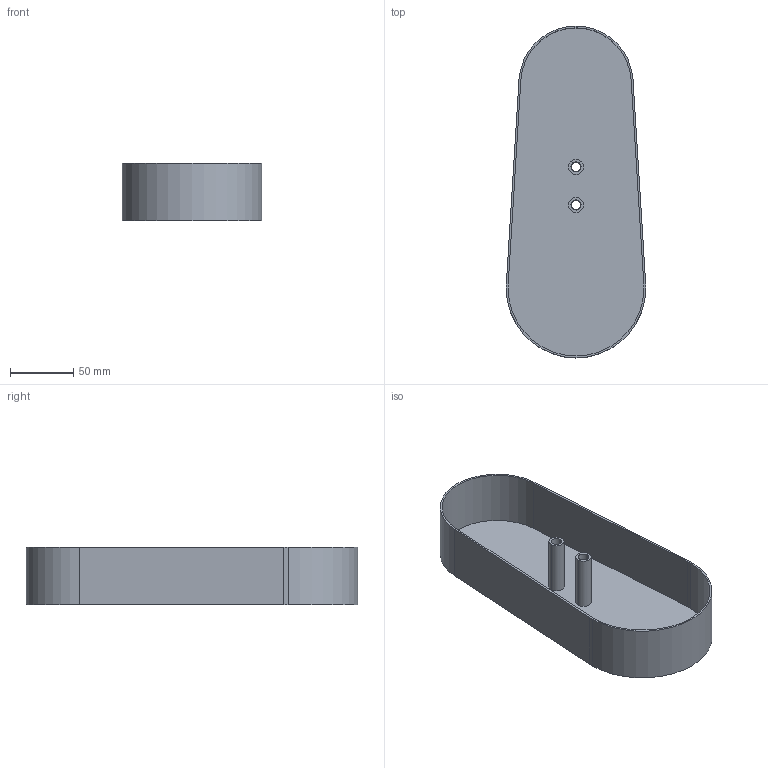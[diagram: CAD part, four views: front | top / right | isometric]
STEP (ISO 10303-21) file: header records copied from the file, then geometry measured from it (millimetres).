
FILE_DESCRIPTION (( 'STEP AP203' ), '1' );
FILE_NAME ('084.809.003.STEP', '2013-01-29T13:15:06', ( 'Alusic' ), ( 'Alusic' ), 'SwSTEP 2.0', 'SolidWorks 2011', '' );
FILE_SCHEMA (( 'CONFIG_CONTROL_DESIGN' ));
Length unit declared in the file: millimetre
Products named in the file (1): 084.809.003
Bounding box: 110 x 261.5 x 45 mm (x, y, z)
Volume: 82828.7 mm3; surface area: 109638.8 mm2
Topology: 1 solids, 1 shells, 31 faces, 72 edges, 48 vertices
Faces by surface type: cylinder 20, plane 11
Entity records: 991 total; most frequent: DIRECTION 176, CARTESIAN_POINT 152, ORIENTED_EDGE 144, AXIS2_PLACEMENT_3D 72, EDGE_CURVE 72, VERTEX_POINT 48, CIRCLE 40, EDGE_LOOP 40
